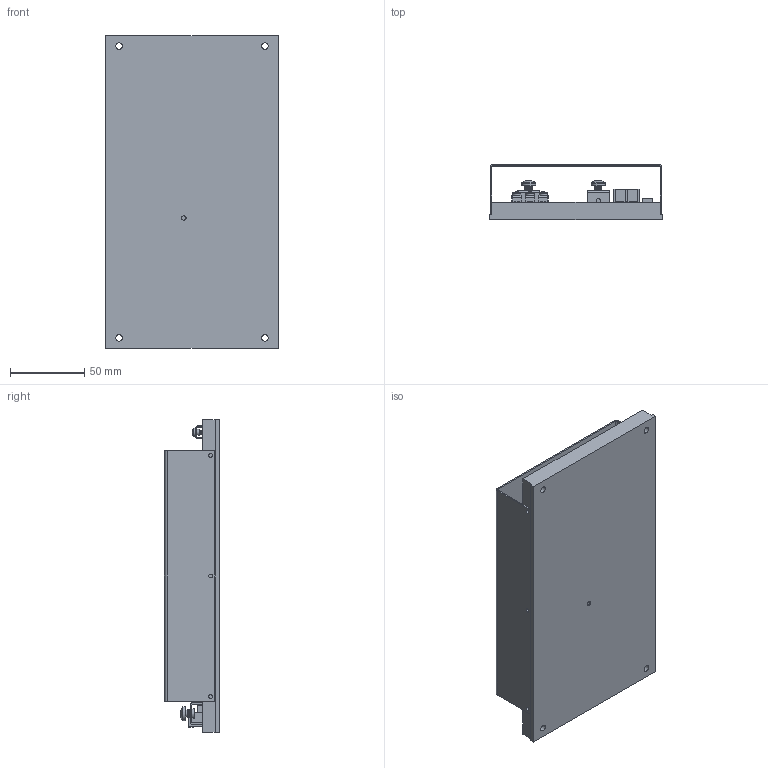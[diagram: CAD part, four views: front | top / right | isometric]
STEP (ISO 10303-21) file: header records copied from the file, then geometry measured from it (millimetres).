
FILE_DESCRIPTION(/* description */ (''),/* implementation_level */ '2;1');
FILE_NAME(/* name */ '',/* time_stamp */ '',/* author */ (''),/* organization */ (''),/* preprocessor_version */ '',/* originating_system */ '',/* authorisation */ '');
FILE_SCHEMA (('AUTOMOTIVE_DESIGN { 1 0 10303 214 3 1 1 }'));
Length unit declared in the file: inch
Products named in the file (1): JETA1500-LP_full
Bounding box: 116 x 37 x 210 mm (x, y, z)
Volume: 285529.9 mm3; surface area: 117970.7 mm2
Topology: 2 solids, 2 shells, 849 faces, 2105 edges, 1285 vertices
Faces by surface type: plane 508, cylinder 208, cone 91, torus 37, sphere 5
Full cylindrical faces by diameter (mm): 2.5 x9, 3 x27, 3.8 x1, 4 x4, 4.2 x2, 4.3 x4, 5 x6, 5.6 x3, 6.3 x2, 9.5 x2
Entity records: 24896 total; most frequent: CARTESIAN_POINT 4446, DIRECTION 4164, ORIENTED_EDGE 3804, EDGE_CURVE 1902, AXIS2_PLACEMENT_3D 1452, LINE 1260, VECTOR 1260, VERTEX_POINT 1214
